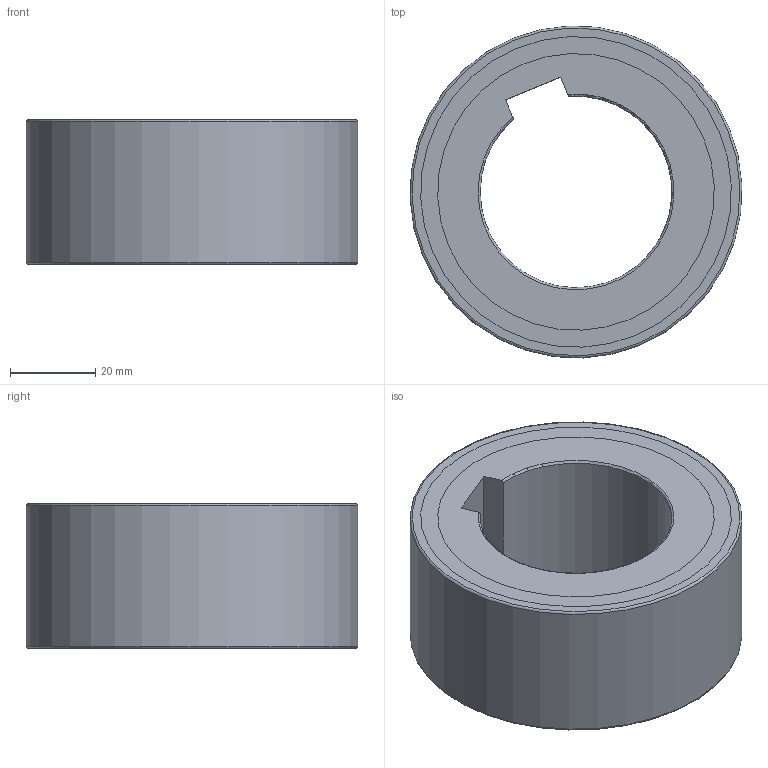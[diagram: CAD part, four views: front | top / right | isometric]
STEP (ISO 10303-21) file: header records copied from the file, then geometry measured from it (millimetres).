
FILE_DESCRIPTION(/* description */ (''),/* implementation_level */ '2;1');
FILE_NAME(/* name */ '306532 FND 473 M.stp',/* time_stamp */ '2016-11-17T10:20:28+01:00',/* author */ (''),/* organization */ (''),/* preprocessor_version */ 'ST-DEVELOPER v15',/* originating_system */ 'SIEMENS PLM Software NX 8.5',/* authorisation */ '');
FILE_SCHEMA (('CONFIG_CONTROL_DESIGN'));
Length unit declared in the file: millimetre
Products named in the file (3): ATE0000080_01; ATE0000091_01; ATE0000092_01
Assembly tree (2 placements, depth 2):
  ATE0000092_01
    ATE0000091_01
    ATE0000080_01
Bounding box: 77.92 x 77.92 x 34 mm (x, y, z)
Volume: 95109.3 mm3; surface area: 50501.5 mm2
Topology: 5 solids, 5 shells, 79 faces, 173 edges, 114 vertices
Faces by surface type: plane 49, cylinder 24, torus 6
Full cylindrical faces by diameter (mm): 65 x5, 69 x1, 71 x1, 72 x2, 73 x5, 78 x1
Entity records: 2414 total; most frequent: CARTESIAN_POINT 414, DIRECTION 374, ORIENTED_EDGE 292, AXIS2_PLACEMENT_3D 150, EDGE_CURVE 146, EDGE_LOOP 120, VERTEX_POINT 108, ADVANCED_FACE 79
